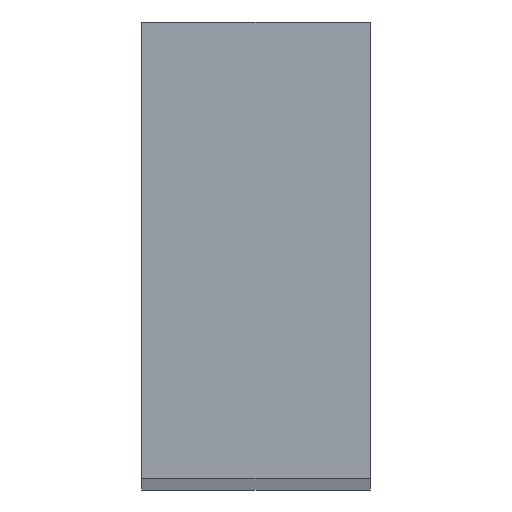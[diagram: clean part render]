
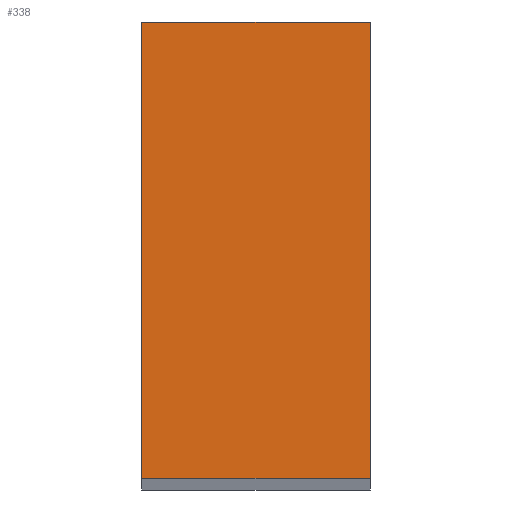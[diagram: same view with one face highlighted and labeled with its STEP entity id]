
A CAD part, top view. The second image highlights one B-rep face of the part: STEP entity #338.
In plain terms, the highlighted planar face has unit normal (0, 0, 1).
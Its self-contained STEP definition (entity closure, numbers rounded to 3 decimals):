
#24 = VERTEX_POINT('',#25);
#25 = CARTESIAN_POINT('',(-85.,-20.,612.));
#32 = PLANE('',#33);
#33 = AXIS2_PLACEMENT_3D('',#34,#35,#36);
#34 = CARTESIAN_POINT('',(-85.,-20.,12.));
#35 = DIRECTION('',(1.,0.,0.));
#36 = DIRECTION('',(0.,0.,1.));
#44 = PLANE('',#45);
#45 = AXIS2_PLACEMENT_3D('',#46,#47,#48);
#46 = CARTESIAN_POINT('',(-85.,-20.,12.));
#47 = DIRECTION('',(0.,1.,0.));
#48 = DIRECTION('',(0.,0.,1.));
#85 = VERTEX_POINT('',#86);
#86 = CARTESIAN_POINT('',(-85.,20.,612.));
#100 = PLANE('',#101);
#101 = AXIS2_PLACEMENT_3D('',#102,#103,#104);
#102 = CARTESIAN_POINT('',(-85.,20.,12.));
#103 = DIRECTION('',(0.,1.,0.));
#104 = DIRECTION('',(0.,0.,1.));
#112 = EDGE_CURVE('',#24,#85,#113,.T.);
#113 = SURFACE_CURVE('',#114,(#118,#125),.PCURVE_S1.);
#114 = LINE('',#115,#116);
#115 = CARTESIAN_POINT('',(-85.,-20.,612.));
#116 = VECTOR('',#117,1.);
#117 = DIRECTION('',(0.,1.,0.));
#118 = PCURVE('',#32,#119);
#119 = DEFINITIONAL_REPRESENTATION('',(#120),#124);
#120 = LINE('',#121,#122);
#121 = CARTESIAN_POINT('',(600.,0.));
#122 = VECTOR('',#123,1.);
#123 = DIRECTION('',(0.,-1.));
#124 = ( GEOMETRIC_REPRESENTATION_CONTEXT(2) 
PARAMETRIC_REPRESENTATION_CONTEXT() REPRESENTATION_CONTEXT('2D SPACE',''
  ) );
#125 = PCURVE('',#126,#131);
#126 = PLANE('',#127);
#127 = AXIS2_PLACEMENT_3D('',#128,#129,#130);
#128 = CARTESIAN_POINT('',(-85.,-20.,612.));
#129 = DIRECTION('',(0.,0.,1.));
#130 = DIRECTION('',(1.,0.,0.));
#131 = DEFINITIONAL_REPRESENTATION('',(#132),#136);
#132 = LINE('',#133,#134);
#133 = CARTESIAN_POINT('',(0.,0.));
#134 = VECTOR('',#135,1.);
#135 = DIRECTION('',(0.,1.));
#136 = ( GEOMETRIC_REPRESENTATION_CONTEXT(2) 
PARAMETRIC_REPRESENTATION_CONTEXT() REPRESENTATION_CONTEXT('2D SPACE',''
  ) );
#144 = VERTEX_POINT('',#145);
#145 = CARTESIAN_POINT('',(-65.,-20.,612.));
#152 = PLANE('',#153);
#153 = AXIS2_PLACEMENT_3D('',#154,#155,#156);
#154 = CARTESIAN_POINT('',(-65.,-20.,12.));
#155 = DIRECTION('',(1.,0.,0.));
#156 = DIRECTION('',(0.,0.,1.));
#195 = VERTEX_POINT('',#196);
#196 = CARTESIAN_POINT('',(-65.,20.,612.));
#217 = EDGE_CURVE('',#144,#195,#218,.T.);
#218 = SURFACE_CURVE('',#219,(#223,#230),.PCURVE_S1.);
#219 = LINE('',#220,#221);
#220 = CARTESIAN_POINT('',(-65.,-20.,612.));
#221 = VECTOR('',#222,1.);
#222 = DIRECTION('',(0.,1.,0.));
#223 = PCURVE('',#152,#224);
#224 = DEFINITIONAL_REPRESENTATION('',(#225),#229);
#225 = LINE('',#226,#227);
#226 = CARTESIAN_POINT('',(600.,0.));
#227 = VECTOR('',#228,1.);
#228 = DIRECTION('',(0.,-1.));
#229 = ( GEOMETRIC_REPRESENTATION_CONTEXT(2) 
PARAMETRIC_REPRESENTATION_CONTEXT() REPRESENTATION_CONTEXT('2D SPACE',''
  ) );
#230 = PCURVE('',#126,#231);
#231 = DEFINITIONAL_REPRESENTATION('',(#232),#236);
#232 = LINE('',#233,#234);
#233 = CARTESIAN_POINT('',(20.,0.));
#234 = VECTOR('',#235,1.);
#235 = DIRECTION('',(0.,1.));
#236 = ( GEOMETRIC_REPRESENTATION_CONTEXT(2) 
PARAMETRIC_REPRESENTATION_CONTEXT() REPRESENTATION_CONTEXT('2D SPACE',''
  ) );
#263 = EDGE_CURVE('',#24,#144,#264,.T.);
#264 = SURFACE_CURVE('',#265,(#269,#276),.PCURVE_S1.);
#265 = LINE('',#266,#267);
#266 = CARTESIAN_POINT('',(-85.,-20.,612.));
#267 = VECTOR('',#268,1.);
#268 = DIRECTION('',(1.,0.,0.));
#269 = PCURVE('',#44,#270);
#270 = DEFINITIONAL_REPRESENTATION('',(#271),#275);
#271 = LINE('',#272,#273);
#272 = CARTESIAN_POINT('',(600.,0.));
#273 = VECTOR('',#274,1.);
#274 = DIRECTION('',(0.,1.));
#275 = ( GEOMETRIC_REPRESENTATION_CONTEXT(2) 
PARAMETRIC_REPRESENTATION_CONTEXT() REPRESENTATION_CONTEXT('2D SPACE',''
  ) );
#276 = PCURVE('',#126,#277);
#277 = DEFINITIONAL_REPRESENTATION('',(#278),#282);
#278 = LINE('',#279,#280);
#279 = CARTESIAN_POINT('',(0.,0.));
#280 = VECTOR('',#281,1.);
#281 = DIRECTION('',(1.,0.));
#282 = ( GEOMETRIC_REPRESENTATION_CONTEXT(2) 
PARAMETRIC_REPRESENTATION_CONTEXT() REPRESENTATION_CONTEXT('2D SPACE',''
  ) );
#310 = EDGE_CURVE('',#85,#195,#311,.T.);
#311 = SURFACE_CURVE('',#312,(#316,#323),.PCURVE_S1.);
#312 = LINE('',#313,#314);
#313 = CARTESIAN_POINT('',(-85.,20.,612.));
#314 = VECTOR('',#315,1.);
#315 = DIRECTION('',(1.,0.,0.));
#316 = PCURVE('',#100,#317);
#317 = DEFINITIONAL_REPRESENTATION('',(#318),#322);
#318 = LINE('',#319,#320);
#319 = CARTESIAN_POINT('',(600.,0.));
#320 = VECTOR('',#321,1.);
#321 = DIRECTION('',(0.,1.));
#322 = ( GEOMETRIC_REPRESENTATION_CONTEXT(2) 
PARAMETRIC_REPRESENTATION_CONTEXT() REPRESENTATION_CONTEXT('2D SPACE',''
  ) );
#323 = PCURVE('',#126,#324);
#324 = DEFINITIONAL_REPRESENTATION('',(#325),#329);
#325 = LINE('',#326,#327);
#326 = CARTESIAN_POINT('',(0.,40.));
#327 = VECTOR('',#328,1.);
#328 = DIRECTION('',(1.,0.));
#329 = ( GEOMETRIC_REPRESENTATION_CONTEXT(2) 
PARAMETRIC_REPRESENTATION_CONTEXT() REPRESENTATION_CONTEXT('2D SPACE',''
  ) );
#338 = ADVANCED_FACE('',(#339),#126,.T.);
#339 = FACE_BOUND('',#340,.T.);
#340 = EDGE_LOOP('',(#341,#342,#343,#344));
#341 = ORIENTED_EDGE('',*,*,#112,.F.);
#342 = ORIENTED_EDGE('',*,*,#263,.T.);
#343 = ORIENTED_EDGE('',*,*,#217,.T.);
#344 = ORIENTED_EDGE('',*,*,#310,.F.);
